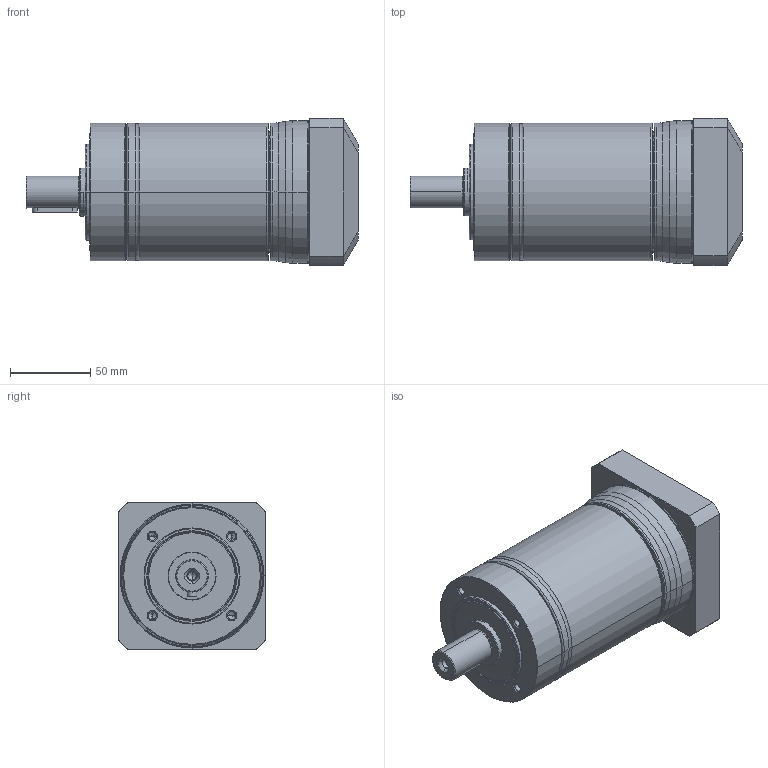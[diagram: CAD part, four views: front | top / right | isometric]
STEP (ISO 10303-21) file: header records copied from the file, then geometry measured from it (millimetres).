
FILE_DESCRIPTION((''),'2;1');
FILE_NAME('PG2-080_3ST_19-P0411400101_ASM','2016-04-15T',('d01943'),(''),'PRO/ENGINEER BY PARAMETRIC TECHNOLOGY CORPORATION, 2008410','PRO/ENGINEER BY PARAMETRIC TECHNOLOGY CORPORATION, 2008410','');
FILE_SCHEMA(('CONFIG_CONTROL_DESIGN'));
Length unit declared in the file: millimetre
Products named in the file (9): P1325310001; P0273300001; P1324300101; P0350301103; P0411400101; P0503400008; P0941301001; P1702500001; PG2-080_3ST_19-P0411400101_ASM
Assembly tree (8 placements, depth 2):
  PG2-080_3ST_19-P0411400101_ASM
    P1325310001
    P0273300001
    P1324300101
    P0350301103
    P0411400101
    P0503400008
    P0941301001
    P1702500001
Bounding box: 207.5 x 92 x 92 mm (x, y, z)
Volume: 684034.8 mm3; surface area: 160764 mm2
Topology: 8 solids, 9 shells, 475 faces, 1045 edges, 601 vertices
Faces by surface type: cone 142, cylinder 139, torus 96, plane 80, bspline 18
Entity records: 17800 total; most frequent: CARTESIAN_POINT 7123, DIRECTION 2433, ORIENTED_EDGE 2022, AXIS2_PLACEMENT_3D 1043, EDGE_CURVE 1011, VERTEX_POINT 601, CIRCLE 569, EDGE_LOOP 540
